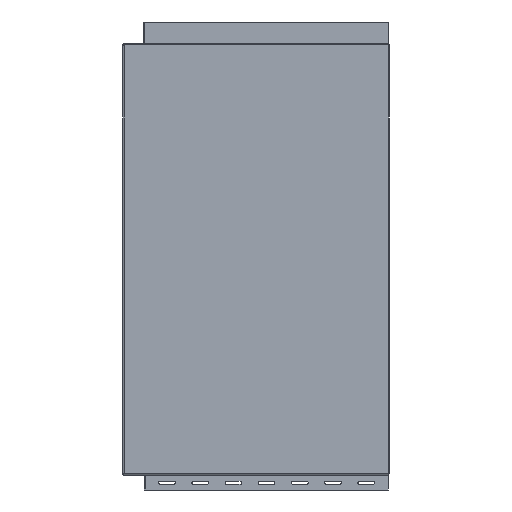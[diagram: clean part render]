
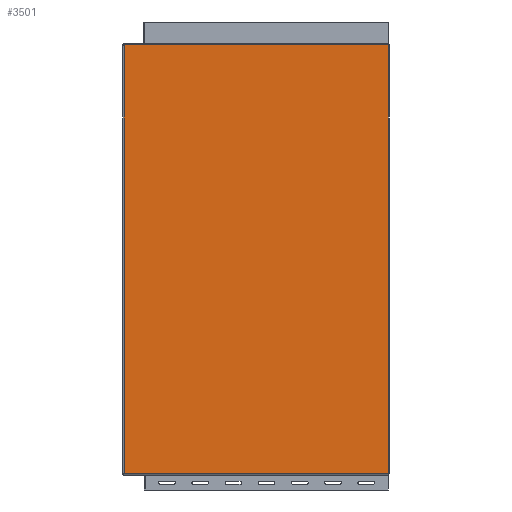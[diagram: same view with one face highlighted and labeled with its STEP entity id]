
A CAD part, front view. The second image highlights one B-rep face of the part: STEP entity #3501.
In plain terms, the highlighted planar face has unit normal (0, -1, 0).
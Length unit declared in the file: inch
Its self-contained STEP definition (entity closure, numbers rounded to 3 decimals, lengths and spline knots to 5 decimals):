
#425=FACE_OUTER_BOUND('',#601,.T.);
#601=EDGE_LOOP('',(#2645,#2646,#2647,#2648,#2649,#2650));
#906=LINE('',#5705,#1234);
#911=LINE('',#5740,#1239);
#912=LINE('',#5742,#1240);
#913=LINE('',#5744,#1241);
#914=LINE('',#5746,#1242);
#915=LINE('',#5747,#1243);
#1234=VECTOR('',#4374,39.37008);
#1239=VECTOR('',#4393,39.37008);
#1240=VECTOR('',#4394,39.37008);
#1241=VECTOR('',#4395,39.37008);
#1242=VECTOR('',#4396,39.37008);
#1243=VECTOR('',#4397,39.37008);
#1599=VERTEX_POINT('',#5695);
#1600=VERTEX_POINT('',#5704);
#1607=VERTEX_POINT('',#5739);
#1608=VERTEX_POINT('',#5741);
#1609=VERTEX_POINT('',#5743);
#1610=VERTEX_POINT('',#5745);
#2022=EDGE_CURVE('',#1600,#1599,#906,.T.);
#2034=EDGE_CURVE('',#1599,#1607,#911,.T.);
#2035=EDGE_CURVE('',#1608,#1607,#912,.T.);
#2036=EDGE_CURVE('',#1608,#1609,#913,.T.);
#2037=EDGE_CURVE('',#1609,#1610,#914,.T.);
#2038=EDGE_CURVE('',#1610,#1600,#915,.T.);
#2645=ORIENTED_EDGE('',*,*,#2022,.T.);
#2646=ORIENTED_EDGE('',*,*,#2034,.T.);
#2647=ORIENTED_EDGE('',*,*,#2035,.F.);
#2648=ORIENTED_EDGE('',*,*,#2036,.T.);
#2649=ORIENTED_EDGE('',*,*,#2037,.T.);
#2650=ORIENTED_EDGE('',*,*,#2038,.T.);
#3367=PLANE('',#3763);
#3501=ADVANCED_FACE('',(#425),#3367,.T.);
#3763=AXIS2_PLACEMENT_3D('',#5738,#4391,#4392);
#4374=DIRECTION('',(-1.,0.,0.));
#4391=DIRECTION('center_axis',(0.,-1.,0.));
#4392=DIRECTION('ref_axis',(0.,0.,-1.));
#4393=DIRECTION('',(0.,0.,-1.));
#4394=DIRECTION('',(-1.,0.,0.));
#4395=DIRECTION('',(1.,0.,0.));
#4396=DIRECTION('',(0.,0.,1.));
#4397=DIRECTION('',(-1.,0.,0.));
#5695=CARTESIAN_POINT('',(7.7165,48.574,22.6155));
#5704=CARTESIAN_POINT('',(19.6545,48.574,22.6155));
#5705=CARTESIAN_POINT('',(20.6545,48.574,22.6155));
#5738=CARTESIAN_POINT('Origin',(20.6545,48.574,3.2315));
#5739=CARTESIAN_POINT('',(7.7165,48.574,3.2315));
#5740=CARTESIAN_POINT('',(7.7165,48.574,3.2315));
#5741=CARTESIAN_POINT('',(19.6545,48.574,3.2315));
#5742=CARTESIAN_POINT('',(20.6545,48.574,3.2315));
#5743=CARTESIAN_POINT('',(19.65787,48.574,3.2315));
#5744=CARTESIAN_POINT('',(19.6545,48.574,3.2315));
#5745=CARTESIAN_POINT('',(19.65787,48.574,22.6155));
#5746=CARTESIAN_POINT('',(19.65787,48.574,22.6155));
#5747=CARTESIAN_POINT('',(19.6545,48.574,22.6155));
